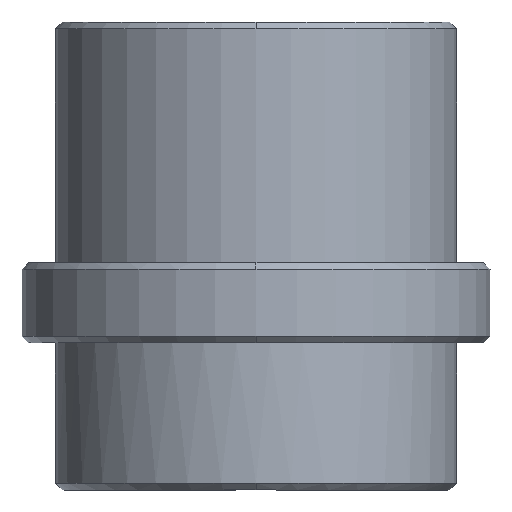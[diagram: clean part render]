
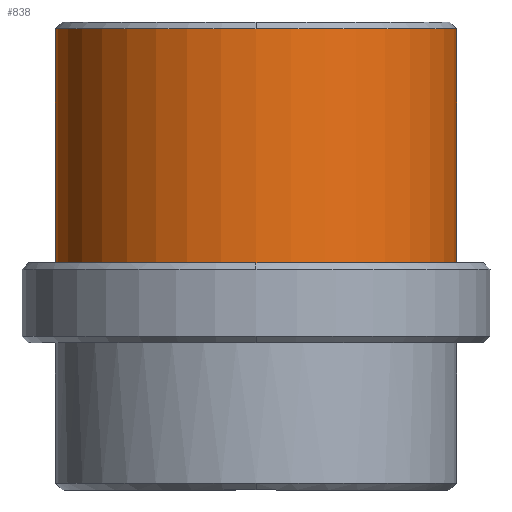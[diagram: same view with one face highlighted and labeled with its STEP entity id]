
A CAD part, front view. The second image highlights one B-rep face of the part: STEP entity #838.
In plain terms, the highlighted cylindrical face has radius 15 mm (diameter 30 mm), a partial arc.
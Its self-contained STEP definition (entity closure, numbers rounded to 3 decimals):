
#591=CARTESIAN_POINT('Vertex',(0.,-15.,23.5)) ;
#607=CARTESIAN_POINT('Vertex',(-15.,0.,23.5)) ;
#610=CARTESIAN_POINT('Axis2P3D Location',(0.,0.,23.5)) ;
#627=CARTESIAN_POINT('Axis2P3D Location',(0.,0.,23.5)) ;
#631=CARTESIAN_POINT('Vertex',(15.,0.,23.5)) ;
#807=CARTESIAN_POINT('Axis2P3D Location',(0.,0.,-12.75)) ;
#812=CARTESIAN_POINT('Line Origine',(-15.,0.,-12.75)) ;
#816=CARTESIAN_POINT('Vertex',(-15.,0.,6.)) ;
#819=CARTESIAN_POINT('Axis2P3D Location',(0.,0.,6.)) ;
#823=CARTESIAN_POINT('Vertex',(15.,0.,6.)) ;
#826=CARTESIAN_POINT('Line Origine',(15.,0.,-12.75)) ;
#611=DIRECTION('Axis2P3D Direction',(0.,0.,-1.)) ;
#628=DIRECTION('Axis2P3D Direction',(0.,0.,-1.)) ;
#808=DIRECTION('Axis2P3D Direction',(0.,0.,1.)) ;
#809=DIRECTION('Axis2P3D XDirection',(-1.,0.,0.)) ;
#813=DIRECTION('Vector Direction',(0.,0.,1.)) ;
#820=DIRECTION('Axis2P3D Direction',(0.,0.,1.)) ;
#827=DIRECTION('Vector Direction',(0.,0.,1.)) ;
#612=AXIS2_PLACEMENT_3D('Circle Axis2P3D',#610,#611,$) ;
#629=AXIS2_PLACEMENT_3D('Circle Axis2P3D',#627,#628,$) ;
#810=AXIS2_PLACEMENT_3D('Cylinder Axis2P3D',#807,#808,#809) ;
#821=AXIS2_PLACEMENT_3D('Circle Axis2P3D',#819,#820,$) ;
#832=ORIENTED_EDGE('',*,*,#818,.T.) ;
#833=ORIENTED_EDGE('',*,*,#825,.F.) ;
#834=ORIENTED_EDGE('',*,*,#830,.F.) ;
#835=ORIENTED_EDGE('',*,*,#633,.T.) ;
#836=ORIENTED_EDGE('',*,*,#614,.T.) ;
#814=VECTOR('Line Direction',#813,1.) ;
#828=VECTOR('Line Direction',#827,1.) ;
#838=ADVANCED_FACE('MANIFOLD_SOLID_BREP #2006',(#837),#811,.T.) ;
#613=CIRCLE('generated circle',#612,15.) ;
#630=CIRCLE('generated circle',#629,15.) ;
#822=CIRCLE('generated circle',#821,15.) ;
#811=CYLINDRICAL_SURFACE('generated cylinder',#810,15.) ;
#614=EDGE_CURVE('',#592,#608,#613,.T.) ;
#633=EDGE_CURVE('',#632,#592,#630,.T.) ;
#818=EDGE_CURVE('',#608,#817,#815,.F.) ;
#825=EDGE_CURVE('',#824,#817,#822,.F.) ;
#830=EDGE_CURVE('',#632,#824,#829,.F.) ;
#831=EDGE_LOOP('',(#832,#833,#834,#835,#836)) ;
#837=FACE_OUTER_BOUND('',#831,.T.) ;
#815=LINE('Line',#812,#814) ;
#829=LINE('Line',#826,#828) ;
#592=VERTEX_POINT('',#591) ;
#608=VERTEX_POINT('',#607) ;
#632=VERTEX_POINT('',#631) ;
#817=VERTEX_POINT('',#816) ;
#824=VERTEX_POINT('',#823) ;
